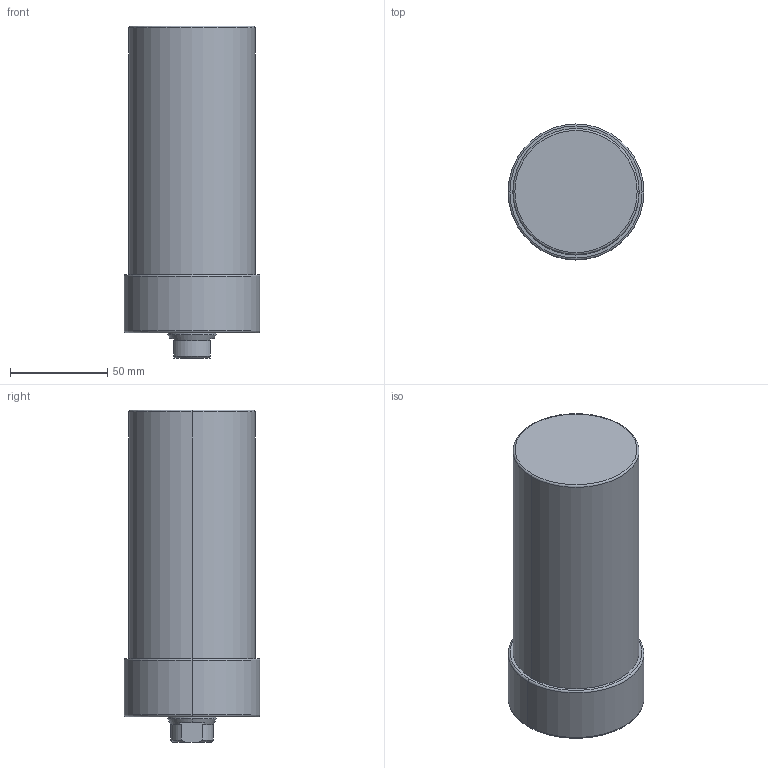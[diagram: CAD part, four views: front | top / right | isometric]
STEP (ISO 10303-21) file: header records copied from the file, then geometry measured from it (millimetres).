
FILE_DESCRIPTION (( 'STEP AP203' ), '1' );
FILE_NAME ('CLLU-065GA-095.STEP', '2020-01-07T00:07:42', ( '' ), ( '' ), 'SwSTEP 2.0', 'SolidWorks 2015', '' );
FILE_SCHEMA (( 'CONFIG_CONTROL_DESIGN' ));
Length unit declared in the file: millimetre
Products named in the file (1): CLLU-065GA-095
Bounding box: 70 x 70 x 171 mm (x, y, z)
Volume: 540631.2 mm3; surface area: 43162.7 mm2
Topology: 1 solids, 1 shells, 62 faces, 140 edges, 79 vertices
Faces by surface type: cone 24, cylinder 22, plane 10, torus 6
Entity records: 1751 total; most frequent: DIRECTION 320, CARTESIAN_POINT 300, ORIENTED_EDGE 260, AXIS2_PLACEMENT_3D 135, EDGE_CURVE 130, VERTEX_POINT 79, CIRCLE 72, EDGE_LOOP 71
